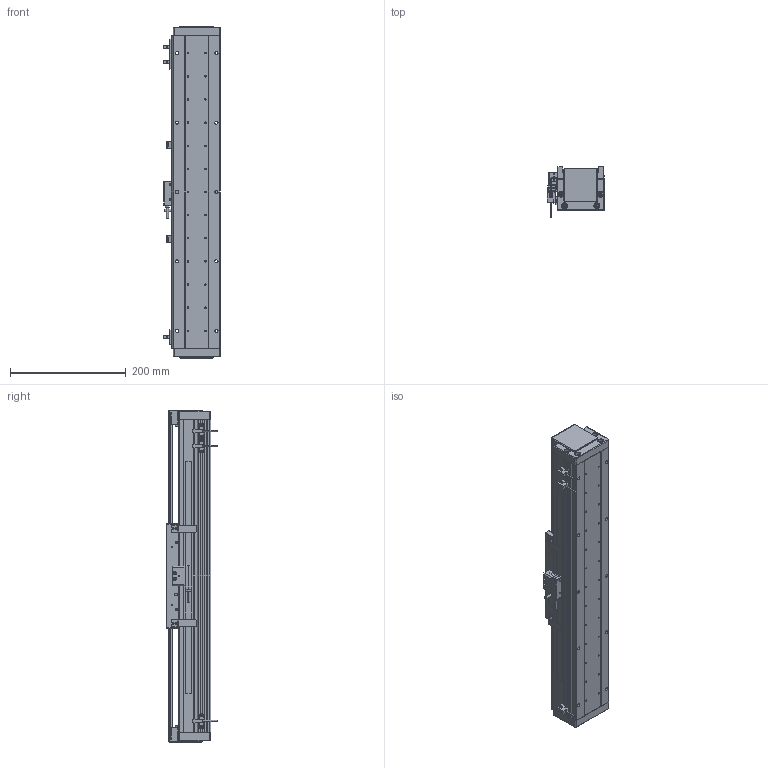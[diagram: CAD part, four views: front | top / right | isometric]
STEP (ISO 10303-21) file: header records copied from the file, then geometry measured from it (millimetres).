
FILE_DESCRIPTION (( 'STEP AP203' ), '1' );
FILE_NAME ('DA-A82-B2-T320-C010-0.2 眻盄萇儂.STEP', '2025-08-13T03:03:29', ( '' ), ( '' ), 'SwSTEP 2.0', 'SolidWorks 2019', '' );
FILE_SCHEMA (( 'CONFIG_CONTROL_DESIGN' ));
Length unit declared in the file: millimetre
Products named in the file (21): 葩璃 鞠褒情蹟譫 M3^DA-A82-B2-T-C010-0.2; 复件 复件 DA82-XJ-00 缓冲橡胶^DA-A82-B2-T-C010-0.2; 复件 DA95-GT-T-00 底座钢轨^IU-AU82-L 底座导轨; AU82-HT-M-00 賑雄怢啣; DA-A82-B2-T320-C010-0.2 眻盄萇儂; ｸｴｼ BKM02-W040-C1-TP-DA-3.0 ﾖｱﾏﾟｵ扈巐ｯﾗﾓ^DA-A82-B2-T-C010-0.2; 复件 DA82-DG-H-N-00 端盖^DA-A82-B2-T-C010-0.2(默认_按加工_); 葩璃 DA60-DMT-DTJ-00 黍杅芛盓殤^DA-A82-B2-T-C010-0.2; AU82-M 幗紩賑怢; 葩璃 DMT-010 1米m 0.2M^DA-A82-B2-T-C010-0.2; 葩璃 PM-T45^DA-A82-B2-T-C010-0.2; AU82-M-00 珨极趙賑雄怢啣; 复件 纯铜油杯 6x6mm^AU82-M 滚珠滑台; IU-AU82-L 菁釱絳寢; 葩璃 DA82-T-002-00 裔啣^DA-A82-B2-T-C010-0.2; 葩璃 DA82-B2-DP-00 結え^AU82-M 幗紩賑怢; DA-A60-GYP-DMT-00 光电感应片^DA-A82-B2-T-C010-0.2(默认); 葩璃 XD-U-02  棠掑喜^DA-A82-B2-T-C010-0.2; 葩璃 BKM01-W040-TRL^DA-A82-B2-T-C010-0.2; 复件 DA95-B2-GT-00 滑块钢轨^AU82-M-00 一体化滑动台板; IU-AU82-L-00 菁釱(L540)
Assembly tree (36 placements, depth 4):
  DA-A82-B2-T320-C010-0.2 眻盄萇儂
    IU-AU82-L 菁釱絳寢
      IU-AU82-L-00 菁釱(L540)
      复件 DA95-GT-T-00 底座钢轨^IU-AU82-L 底座导轨  x2
    AU82-M 幗紩賑怢
      AU82-M-00 珨极趙賑雄怢啣
        AU82-HT-M-00 賑雄怢啣
        复件 DA95-B2-GT-00 滑块钢轨^AU82-M-00 一体化滑动台板  x4
      葩璃 DA82-B2-DP-00 結え^AU82-M 幗紩賑怢  x2
      复件 纯铜油杯 6x6mm^AU82-M 滚珠滑台  x2
    葩璃 DA60-DMT-DTJ-00 黍杅芛盓殤^DA-A82-B2-T-C010-0.2
    葩璃 DMT-010 1米m 0.2M^DA-A82-B2-T-C010-0.2
    DA-A60-GYP-DMT-00 光电感应片^DA-A82-B2-T-C010-0.2(默认)  x2
    ｸｴｼ BKM02-W040-C1-TP-DA-3.0 ﾖｱﾏﾟｵ扈巐ｯﾗﾓ^DA-A82-B2-T-C010-0.2
    复件 复件 DA82-XJ-00 缓冲橡胶^DA-A82-B2-T-C010-0.2  x2
    复件 DA82-DG-H-N-00 端盖^DA-A82-B2-T-C010-0.2(默认_按加工_)  x2
    葩璃 DA82-T-002-00 裔啣^DA-A82-B2-T-C010-0.2
    葩璃 BKM01-W040-TRL^DA-A82-B2-T-C010-0.2
    葩璃 PM-T45^DA-A82-B2-T-C010-0.2  x3
    葩璃 XD-U-02  棠掑喜^DA-A82-B2-T-C010-0.2
    葩璃 鞠褒情蹟譫 M3^DA-A82-B2-T-C010-0.2  x6
Bounding box: 98.95 x 87.2 x 574 mm (x, y, z)
Volume: 2085828.9 mm3; surface area: 588014.6 mm2
Topology: 40 solids, 64 shells, 1909 faces, 4918 edges, 3044 vertices
Faces by surface type: cylinder 827, plane 774, cone 252, torus 38, bspline 12, sphere 6
Entity records: 48611 total; most frequent: CARTESIAN_POINT 10349, DIRECTION 7678, ORIENTED_EDGE 7158, EDGE_CURVE 3579, AXIS2_PLACEMENT_3D 2866, VERTEX_POINT 2311, VECTOR 1946, LINE 1946
